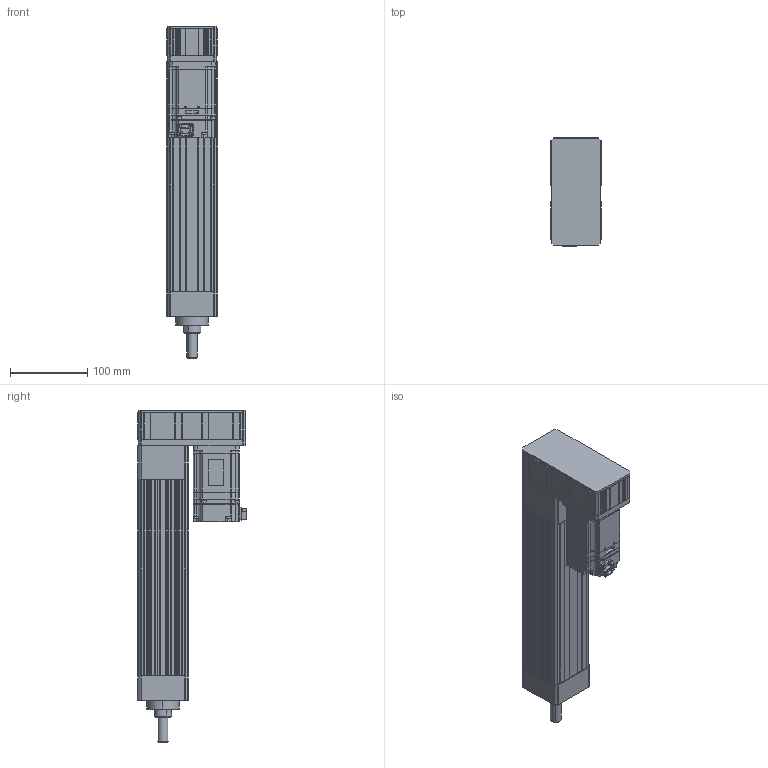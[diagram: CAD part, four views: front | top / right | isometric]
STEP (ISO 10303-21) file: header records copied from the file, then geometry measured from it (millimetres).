
FILE_DESCRIPTION (( 'STEP AP203' ), '1' );
FILE_NAME ('ANS065R-S150-05(10)(20)-W40-M.STEP', '2019-03-03T04:33:52', ( 'user' ), ( '' ), 'SwSTEP 2.0', 'SolidWorks 2013', '' );
FILE_SCHEMA (( 'CONFIG_CONTROL_DESIGN' ));
Length unit declared in the file: millimetre
Products named in the file (4): ANS065R P150 VER2; sgmjv_04a_a21; ANS065 ROD ST150-M; ANS065R-S150-05(10)(20)-W40-M
Assembly tree (3 placements, depth 2):
  ANS065R-S150-05(10)(20)-W40-M
    ANS065R P150 VER2
    sgmjv_04a_a21
    ANS065 ROD ST150-M
Bounding box: 65 x 140.3 x 430 mm (x, y, z)
Volume: 1343018.5 mm3; surface area: 308557.1 mm2
Topology: 3 solids, 7 shells, 1283 faces, 3465 edges, 2248 vertices
Faces by surface type: plane 817, cylinder 380, cone 86
Entity records: 40363 total; most frequent: CARTESIAN_POINT 7232, ORIENTED_EDGE 6898, DIRECTION 6761, EDGE_CURVE 3449, LINE 2567, VECTOR 2567, VERTEX_POINT 2248, AXIS2_PLACEMENT_3D 2097
